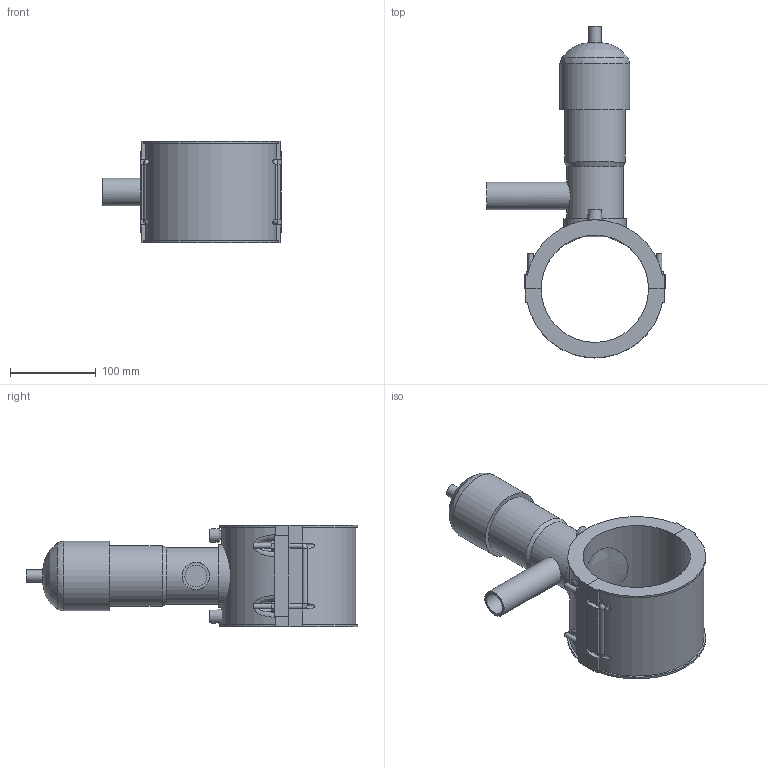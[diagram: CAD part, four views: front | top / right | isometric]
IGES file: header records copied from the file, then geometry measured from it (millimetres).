
Global section: file name: 495404125032.ipt; native system: Autodesk Inventor 2015; preprocessor: unknown; author: KIM; date: 20171106.094250; units: millimetre
Bounding box: 208 x 386.97 x 118 mm (x, y, z)
Volume: 1787659.1 mm3; surface area: 222273 mm2
Topology: 3 solids, 3 shells, 157 faces, 394 edges, 258 vertices
Faces by surface type: plane 99, cylinder 27, revolution 20, cone 7, bspline 4
Full cylindrical faces by diameter (mm): 4 x2, 6 x8, 14.64 x1, 32 x1, 65.88 x1, 70.76 x1, 73.2 x1, 81.333 x1
